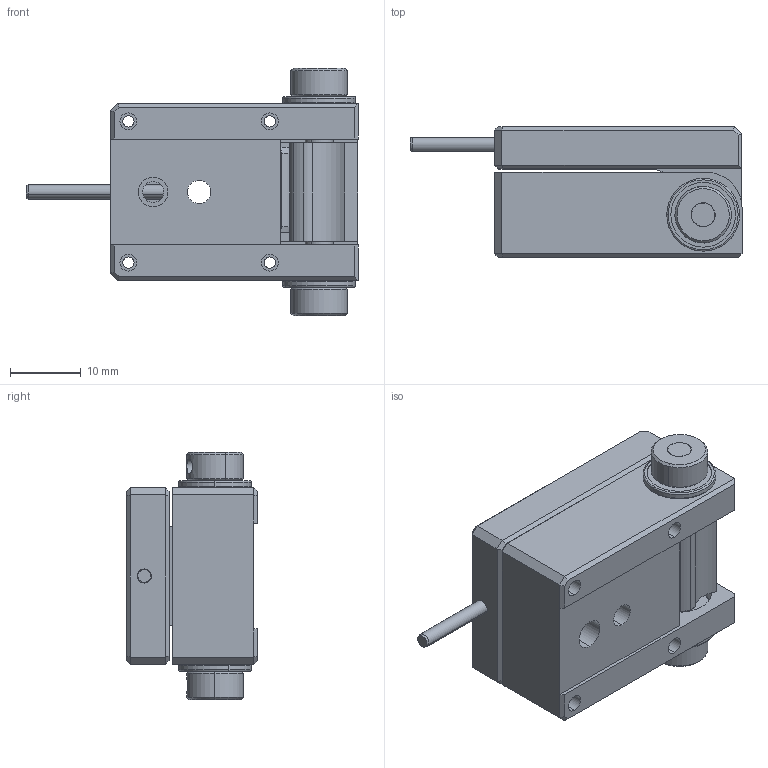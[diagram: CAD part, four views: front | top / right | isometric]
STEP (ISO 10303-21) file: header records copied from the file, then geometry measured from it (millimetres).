
FILE_DESCRIPTION (( 'STEP AP203' ), '1' );
FILE_NAME ('NOS25.step', '2019-05-09T09:00:41', ( '' ), ( '' ), 'SwSTEP 2.0', 'SolidWorks 2016', '' );
FILE_SCHEMA (( 'CONFIG_CONTROL_DESIGN' ));
Length unit declared in the file: millimetre
Products named in the file (1): NOS25
Bounding box: 47 x 18.5 x 35 mm (x, y, z)
Surface area: 7887.3 mm2 (no closed solid volume)
Topology: 0 solids, 16 shells, 199 faces, 770 edges, 582 vertices
Faces by surface type: plane 91, cylinder 78, torus 16, cone 14
Entity records: 8436 total; most frequent: CARTESIAN_POINT 1784, DIRECTION 1384, ORIENTED_EDGE 1176, EDGE_CURVE 770, VERTEX_POINT 582, VECTOR 532, LINE 532, AXIS2_PLACEMENT_3D 426
